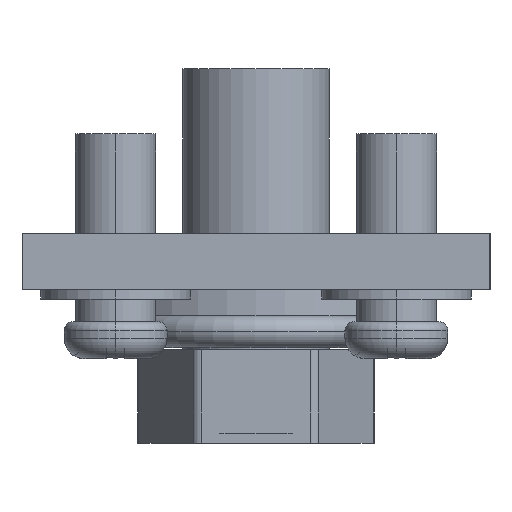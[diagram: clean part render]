
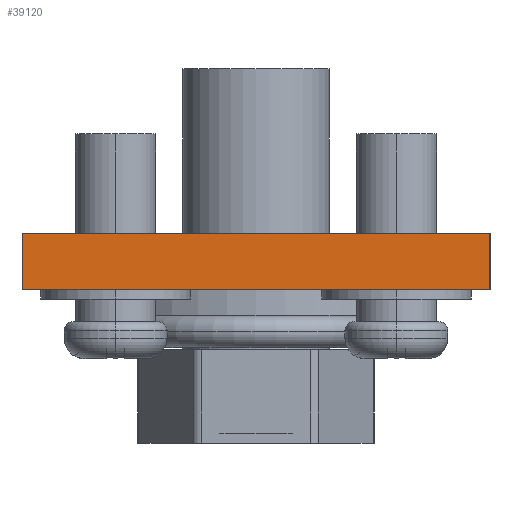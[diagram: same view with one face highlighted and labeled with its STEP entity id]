
A CAD part, left-side view. The second image highlights one B-rep face of the part: STEP entity #39120.
In plain terms, the highlighted planar face has unit normal (-1, 0, 0).
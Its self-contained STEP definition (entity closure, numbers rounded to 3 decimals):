
#33770=CARTESIAN_POINT('',(8.512,66.46,0.));
#33780=DIRECTION('',(0.,-1.,0.));
#33790=VECTOR('',#33780,1.);
#33800=LINE('',#33770,#33790);
#33810=CARTESIAN_POINT('',(8.512,66.46,0.));
#33820=VERTEX_POINT('',#33810);
#33830=CARTESIAN_POINT('',(8.512,41.46,0.));
#33840=VERTEX_POINT('',#33830);
#33850=EDGE_CURVE('',#33820,#33840,#33800,.T.);
#38340=CARTESIAN_POINT('',(8.512,66.46,3.));
#38350=VERTEX_POINT('',#38340);
#38380=CARTESIAN_POINT('',(8.512,66.46,3.));
#38390=DIRECTION('',(0.,0.,-1.));
#38400=VECTOR('',#38390,1.);
#38410=LINE('',#38380,#38400);
#38420=EDGE_CURVE('',#38350,#33820,#38410,.T.);
#38770=CARTESIAN_POINT('',(8.512,41.46,3.));
#38780=DIRECTION('',(0.,0.,-1.));
#38790=VECTOR('',#38780,1.);
#38800=LINE('',#38770,#38790);
#38810=CARTESIAN_POINT('',(8.512,41.46,3.));
#38820=VERTEX_POINT('',#38810);
#38830=EDGE_CURVE('',#38820,#33840,#38800,.T.);
#38960=CARTESIAN_POINT('',(8.512,41.46,0.));
#38970=DIRECTION('',(-1.,0.,0.));
#38980=DIRECTION('',(0.,1.,0.));
#38990=AXIS2_PLACEMENT_3D('',#38960,#38970,#38980);
#39000=PLANE('',#38990);
#39010=ORIENTED_EDGE('',*,*,#38420,.T.);
#39020=CARTESIAN_POINT('',(8.512,66.46,3.));
#39030=DIRECTION('',(0.,-1.,0.));
#39040=VECTOR('',#39030,1.);
#39050=LINE('',#39020,#39040);
#39060=EDGE_CURVE('',#38350,#38820,#39050,.T.);
#39070=ORIENTED_EDGE('',*,*,#39060,.F.);
#39080=ORIENTED_EDGE('',*,*,#38830,.F.);
#39090=ORIENTED_EDGE('',*,*,#33850,.T.);
#39100=EDGE_LOOP('',(#39090,#39080,#39070,#39010));
#39110=FACE_OUTER_BOUND('',#39100,.T.);
#39120=ADVANCED_FACE('',(#39110),#39000,.T.);
